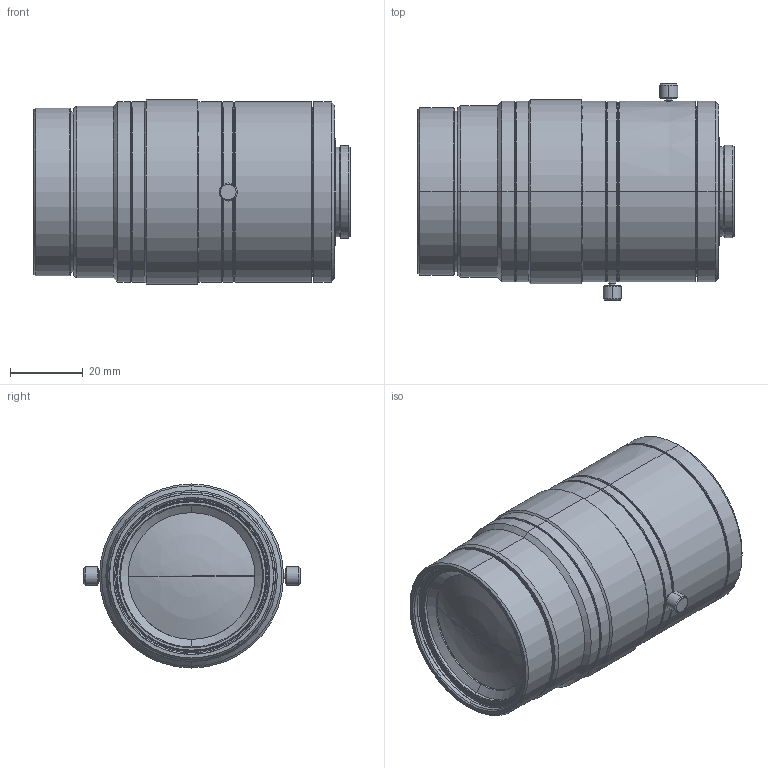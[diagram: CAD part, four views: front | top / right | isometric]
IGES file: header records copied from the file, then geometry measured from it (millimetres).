
Start section: SolidWorks IGES file using analytic representation for surfaces
Global section: file name: \\192.168.200.11\Development\3 製品\1 標準品\01 マクロレンズ\01 VS-LLD series\250 VS-LLD25\10.3D外観モデル\VS-LLD25.IGS; native system: SolidWorks 2017; preprocessor: SolidWorks 2017; author: miura_vst; date: 170529.090536; units: millimetre
Bounding box: 86.78 x 59.35 x 50.5 mm (x, y, z)
Surface area: 22682.9 mm2 (no closed solid volume)
Topology: 0 solids, 0 shells, 174 faces, 3444 edges, 3442 vertices
Faces by surface type: revolution 148, bspline 26
